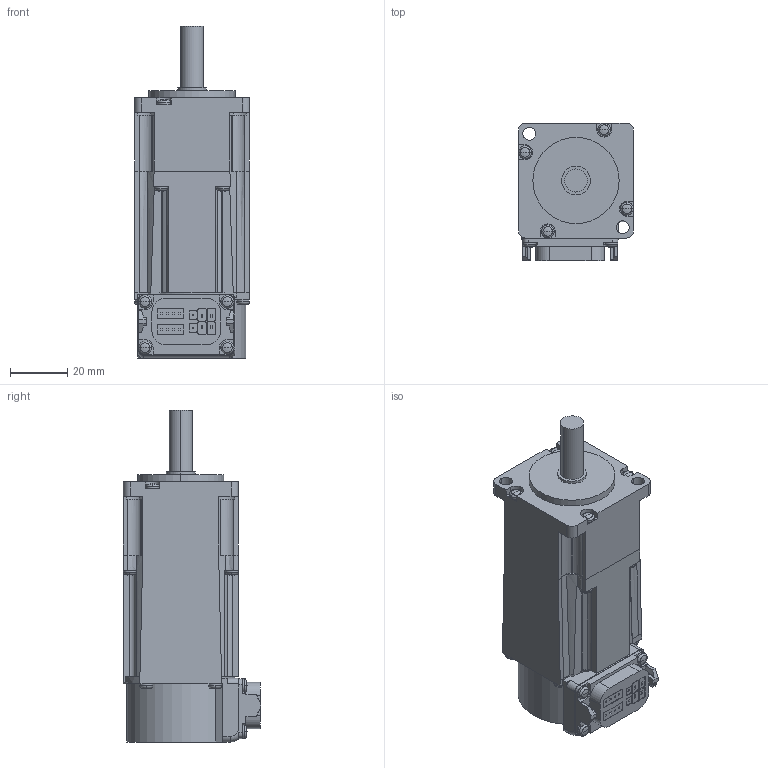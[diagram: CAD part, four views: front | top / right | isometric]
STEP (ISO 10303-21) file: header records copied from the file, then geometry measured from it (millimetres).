
FILE_DESCRIPTION((''),'2;1');
FILE_NAME('HK-KT053WB_-_ASM','2019-01-16T',('XE90682'),(''),'CREO PARAMETRIC BY PTC INC, 2016380','CREO PARAMETRIC BY PTC INC, 2016380','');
FILE_SCHEMA(('CONFIG_CONTROL_DESIGN'));
Length unit declared in the file: millimetre
Products named in the file (1): HK-KT053WB_-_ASM
Bounding box: 40 x 47.85 x 115.5 mm (x, y, z)
Volume: 129175 mm3; surface area: 19284.2 mm2
Topology: 1 solids, 1 shells, 464 faces, 1216 edges, 757 vertices
Faces by surface type: plane 249, cylinder 137, torus 34, sphere 32, bspline 12
Entity records: 14415 total; most frequent: CARTESIAN_POINT 2888, DIRECTION 2451, ORIENTED_EDGE 2368, EDGE_CURVE 1184, AXIS2_PLACEMENT_3D 848, VERTEX_POINT 757, VECTOR 755, LINE 755
